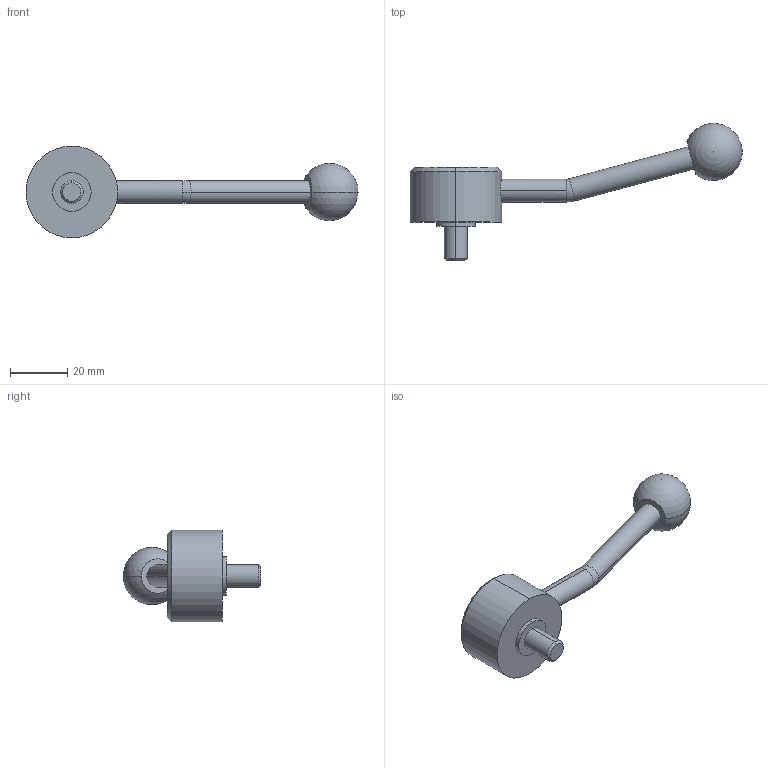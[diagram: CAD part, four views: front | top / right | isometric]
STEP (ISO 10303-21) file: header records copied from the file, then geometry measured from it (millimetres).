
FILE_DESCRIPTION (( 'STEP AP214' ), '1' );
FILE_NAME ('125.5-32-M8-12-E.step', '2020-02-18T11:26:12', ( '' ), ( '' ), 'SwSTEP 2.0', 'SolidWorks 2019', '' );
FILE_SCHEMA (( 'AUTOMOTIVE_DESIGN' ));
Length unit declared in the file: millimetre
Products named in the file (1): 125.5-32-M8-12-E
Bounding box: 115.96 x 48 x 32 mm (x, y, z)
Volume: 23542.1 mm3; surface area: 6643.3 mm2
Topology: 1 solids, 1 shells, 26 faces, 57 edges, 36 vertices
Faces by surface type: cylinder 12, plane 6, cone 4, torus 2, sphere 2
Entity records: 852 total; most frequent: CARTESIAN_POINT 178, DIRECTION 138, ORIENTED_EDGE 104, AXIS2_PLACEMENT_3D 61, EDGE_CURVE 52, CIRCLE 34, VERTEX_POINT 33, EDGE_LOOP 31
